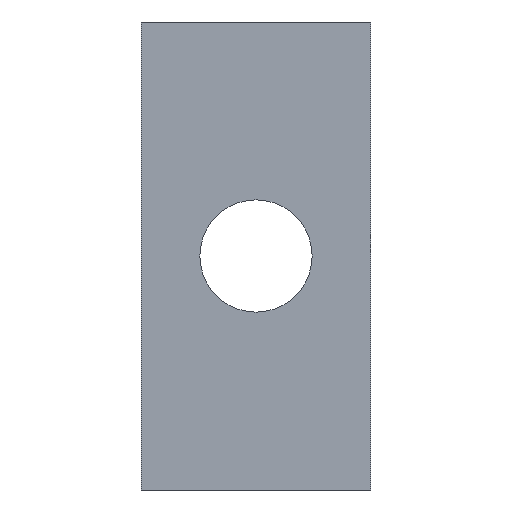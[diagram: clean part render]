
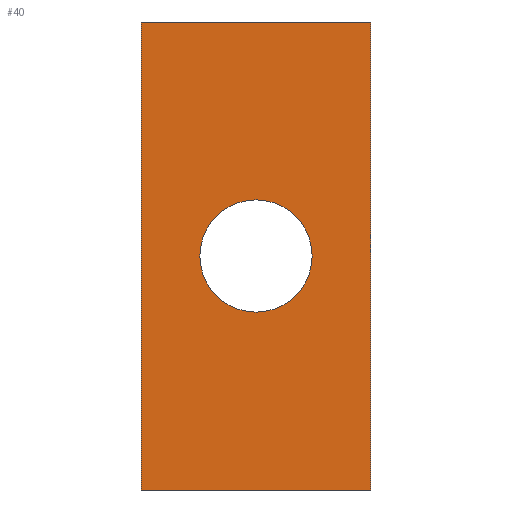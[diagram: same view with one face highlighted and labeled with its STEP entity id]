
A CAD part, front view. The second image highlights one B-rep face of the part: STEP entity #40.
In plain terms, the highlighted planar face has unit normal (0, -1, 0).
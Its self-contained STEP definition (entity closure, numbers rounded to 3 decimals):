
#1 = VECTOR ( 'NONE', #63, 1000. ) ;
#3 = CARTESIAN_POINT ( 'NONE',  ( 0., 0., 0. ) ) ;
#4 = ORIENTED_EDGE ( 'NONE', *, *, #173, .F. ) ;
#7 = CIRCLE ( 'NONE', #24, 47. ) ;
#22 = LINE ( 'NONE', #35, #227 ) ;
#23 = ORIENTED_EDGE ( 'NONE', *, *, #233, .F. ) ;
#24 = AXIS2_PLACEMENT_3D ( 'NONE', #3, #117, #210 ) ;
#26 = CARTESIAN_POINT ( 'NONE',  ( 96., 0., 196. ) ) ;
#30 = PLANE ( 'NONE',  #193 ) ;
#32 = CARTESIAN_POINT ( 'NONE',  ( -96., 0., 196. ) ) ;
#35 = CARTESIAN_POINT ( 'NONE',  ( -96., 0., 196. ) ) ;
#38 = VECTOR ( 'NONE', #51, 1000. ) ;
#40 = ADVANCED_FACE ( 'NONE', ( #190, #59 ), #30, .T. ) ;
#45 = EDGE_CURVE ( 'NONE', #218, #187, #7, .T. ) ;
#47 = VERTEX_POINT ( 'NONE', #26 ) ;
#51 = DIRECTION ( 'NONE',  ( -1., 0., 0. ) ) ;
#54 = CARTESIAN_POINT ( 'NONE',  ( -96., 0., -196. ) ) ;
#56 = ORIENTED_EDGE ( 'NONE', *, *, #274, .F. ) ;
#59 = FACE_OUTER_BOUND ( 'NONE', #85, .T. ) ;
#62 = EDGE_CURVE ( 'NONE', #151, #156, #90, .T. ) ;
#63 = DIRECTION ( 'NONE',  ( 0., 0., -1. ) ) ;
#67 = LINE ( 'NONE', #145, #1 ) ;
#77 = CARTESIAN_POINT ( 'NONE',  ( 0., 0., 0. ) ) ;
#78 = EDGE_CURVE ( 'NONE', #187, #218, #89, .T. ) ;
#85 = EDGE_LOOP ( 'NONE', ( #56, #23, #4, #228 ) ) ;
#89 = CIRCLE ( 'NONE', #140, 47. ) ;
#90 = LINE ( 'NONE', #54, #38 ) ;
#95 = DIRECTION ( 'NONE',  ( 0., -1., 0. ) ) ;
#96 = CARTESIAN_POINT ( 'NONE',  ( 0., 0., 47. ) ) ;
#100 = CARTESIAN_POINT ( 'NONE',  ( 96., 0., -196. ) ) ;
#108 = ORIENTED_EDGE ( 'NONE', *, *, #78, .T. ) ;
#117 = DIRECTION ( 'NONE',  ( 0., 1., 0. ) ) ;
#123 = CARTESIAN_POINT ( 'NONE',  ( 0., 0., -47. ) ) ;
#140 = AXIS2_PLACEMENT_3D ( 'NONE', #77, #240, #215 ) ;
#145 = CARTESIAN_POINT ( 'NONE',  ( 96., 0., 196. ) ) ;
#151 = VERTEX_POINT ( 'NONE', #100 ) ;
#153 = CARTESIAN_POINT ( 'NONE',  ( 0., 0., 0. ) ) ;
#156 = VERTEX_POINT ( 'NONE', #198 ) ;
#159 = CARTESIAN_POINT ( 'NONE',  ( -96., 0., 196. ) ) ;
#173 = EDGE_CURVE ( 'NONE', #156, #220, #22, .T. ) ;
#187 = VERTEX_POINT ( 'NONE', #123 ) ;
#190 = FACE_BOUND ( 'NONE', #200, .T. ) ;
#193 = AXIS2_PLACEMENT_3D ( 'NONE', #153, #95, #232 ) ;
#194 = LINE ( 'NONE', #32, #273 ) ;
#198 = CARTESIAN_POINT ( 'NONE',  ( -96., 0., -196. ) ) ;
#200 = EDGE_LOOP ( 'NONE', ( #214, #108 ) ) ;
#210 = DIRECTION ( 'NONE',  ( 0., 0., 1. ) ) ;
#214 = ORIENTED_EDGE ( 'NONE', *, *, #45, .T. ) ;
#215 = DIRECTION ( 'NONE',  ( 0., 0., 1. ) ) ;
#218 = VERTEX_POINT ( 'NONE', #96 ) ;
#220 = VERTEX_POINT ( 'NONE', #159 ) ;
#227 = VECTOR ( 'NONE', #243, 1000. ) ;
#228 = ORIENTED_EDGE ( 'NONE', *, *, #62, .F. ) ;
#232 = DIRECTION ( 'NONE',  ( 0., 0., -1. ) ) ;
#233 = EDGE_CURVE ( 'NONE', #220, #47, #194, .T. ) ;
#238 = DIRECTION ( 'NONE',  ( 1., 0., 0. ) ) ;
#240 = DIRECTION ( 'NONE',  ( 0., 1., 0. ) ) ;
#243 = DIRECTION ( 'NONE',  ( 0., 0., 1. ) ) ;
#273 = VECTOR ( 'NONE', #238, 1000. ) ;
#274 = EDGE_CURVE ( 'NONE', #47, #151, #67, .T. ) ;
